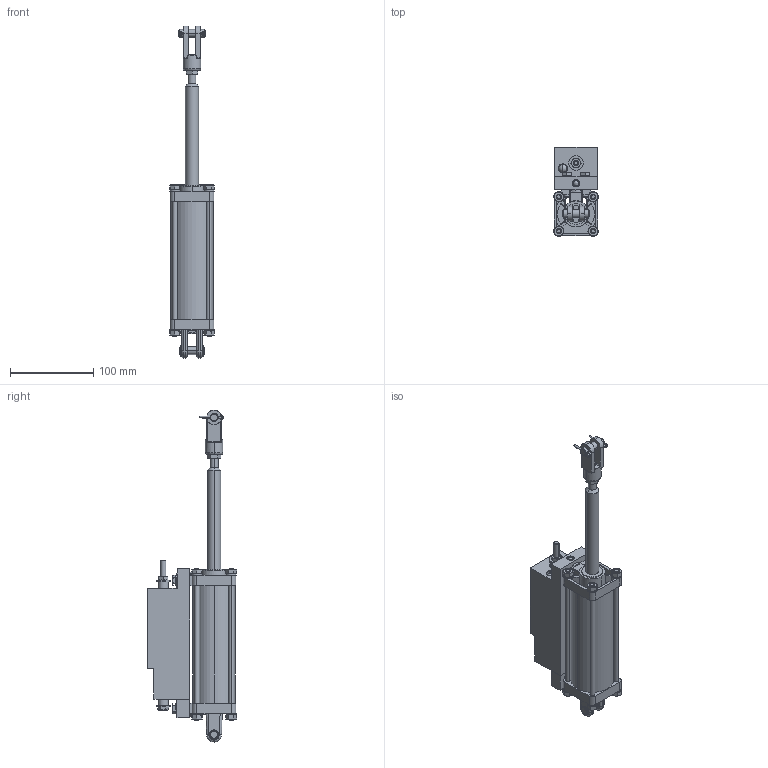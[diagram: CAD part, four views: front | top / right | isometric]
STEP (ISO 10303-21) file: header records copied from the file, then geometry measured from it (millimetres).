
FILE_DESCRIPTION (( 'STEP AP214' ), '1' );
FILE_NAME ('4605-4_revC.STEP', '2019-04-11T17:19:48', ( '' ), ( '' ), 'SwSTEP 2.0', 'SolidWorks 2017', '' );
FILE_SCHEMA (( 'AUTOMOTIVE_DESIGN' ));
Length unit declared in the file: inch
Products named in the file (1): 4605-4_revC
Bounding box: 54.11 x 107.27 x 399.52 mm (x, y, z)
Surface area: 129554.4 mm2 (no closed solid volume)
Topology: 0 solids, 72 shells, 865 faces, 2400 edges, 1573 vertices
Faces by surface type: plane 323, cylinder 289, cone 186, bspline 34, torus 21, sphere 12
Entity records: 41538 total; most frequent: CARTESIAN_POINT 8732, DIRECTION 4604, ORIENTED_EDGE 4104, EDGE_CURVE 2392, AXIS2_PLACEMENT_3D 1817, VERTEX_POINT 1573, CIRCLE 985, VECTOR 970
